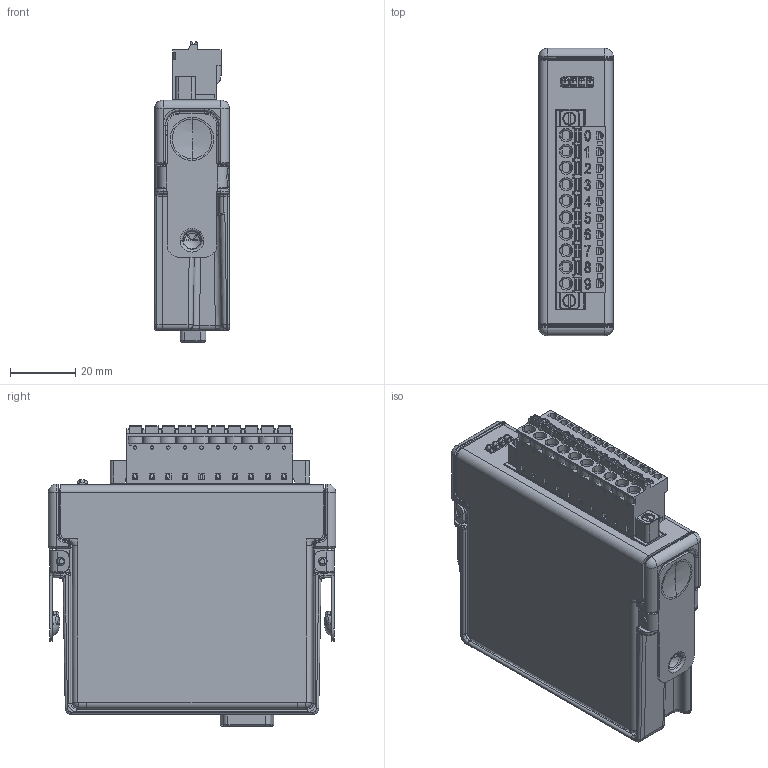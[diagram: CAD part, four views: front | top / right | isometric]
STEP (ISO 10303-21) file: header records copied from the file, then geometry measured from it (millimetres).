
FILE_DESCRIPTION((''),'2;1');
FILE_NAME('CU_NI-9482_SPRING_TERM','2015-11-09T',('dkendric'),(''),'PRO/ENGINEER BY PARAMETRIC TECHNOLOGY CORPORATION, 2015280','PRO/ENGINEER BY PARAMETRIC TECHNOLOGY CORPORATION, 2015280','');
FILE_SCHEMA(('CONFIG_CONTROL_DESIGN'));
Products named in the file (1): CU_NI-9482_SPRING_TERM
Bounding box: 22.86 x 88.11 x 92.06 mm (x, y, z)
Volume: 54668.2 mm3; surface area: 54616 mm2
Topology: 14 solids, 14 shells, 3646 faces, 9069 edges, 5580 vertices
Faces by surface type: plane 1902, cylinder 905, bspline 387, extrusion 185, sphere 95, cone 88, torus 84
Entity records: 139101 total; most frequent: CARTESIAN_POINT 56400, ORIENTED_EDGE 17994, DIRECTION 15540, EDGE_CURVE 8997, VERTEX_POINT 5618, VECTOR 5342, LINE 5157, AXIS2_PLACEMENT_3D 5099
